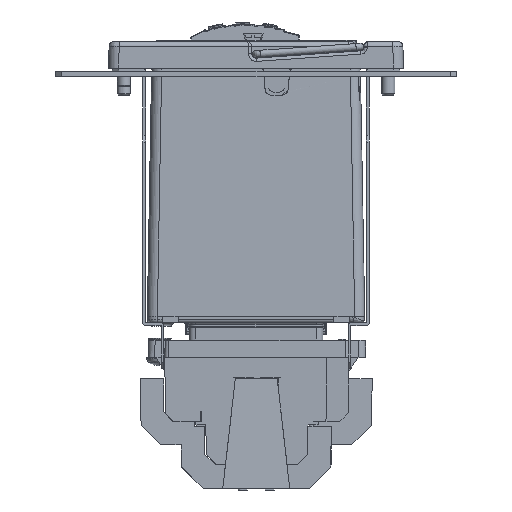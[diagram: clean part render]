
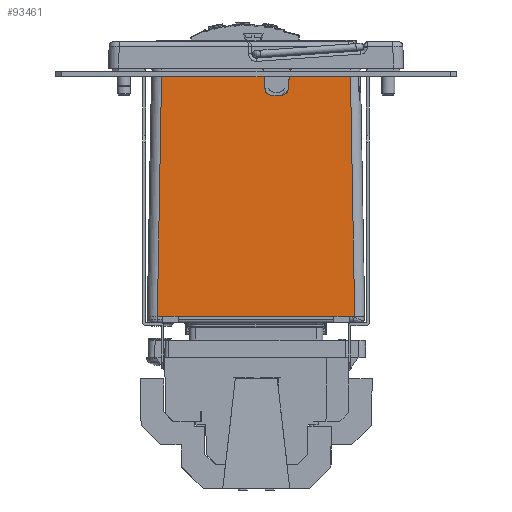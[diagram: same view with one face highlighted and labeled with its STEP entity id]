
A CAD part, left-side view. The second image highlights one B-rep face of the part: STEP entity #93461.
In plain terms, the highlighted planar face has unit normal (-1, 0, 0.018).
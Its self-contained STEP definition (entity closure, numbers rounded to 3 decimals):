
#3902=ELLIPSE('',#98661,2.,2.);
#3903=ELLIPSE('',#98662,2.,2.);
#3904=ELLIPSE('',#98663,2.,2.);
#3905=ELLIPSE('',#98664,2.,2.);
#11591=FACE_OUTER_BOUND('',#16439,.T.);
#16439=EDGE_LOOP('',(#69728,#69729,#69730,#69731,#69732,#69733,#69734,#69735,
#69736,#69737,#69738,#69739,#69740,#69741,#69742,#69743,#69744));
#21336=LINE('',#128353,#30901);
#23819=LINE('',#138274,#33384);
#23835=LINE('',#138307,#33400);
#23874=LINE('',#138420,#33439);
#23877=LINE('',#138432,#33442);
#23881=LINE('',#138441,#33446);
#23899=LINE('',#138488,#33464);
#23900=LINE('',#138490,#33465);
#23901=LINE('',#138492,#33466);
#23902=LINE('',#138494,#33467);
#23903=LINE('',#138495,#33468);
#23904=LINE('',#138497,#33469);
#23905=LINE('',#138501,#33470);
#30901=VECTOR('',#105197,10.);
#33384=VECTOR('',#109954,10.);
#33400=VECTOR('',#109974,10.);
#33439=VECTOR('',#110105,10.);
#33442=VECTOR('',#110118,10.);
#33446=VECTOR('',#110126,10.);
#33464=VECTOR('',#110178,10.);
#33465=VECTOR('',#110179,10.);
#33466=VECTOR('',#110180,10.);
#33467=VECTOR('',#110181,10.);
#33468=VECTOR('',#110182,10.);
#33469=VECTOR('',#110183,10.);
#33470=VECTOR('',#110186,10.);
#40413=VERTEX_POINT('',#128350);
#40414=VERTEX_POINT('',#128352);
#42745=VERTEX_POINT('',#138272);
#42759=VERTEX_POINT('',#138304);
#42760=VERTEX_POINT('',#138306);
#42787=VERTEX_POINT('',#138417);
#42788=VERTEX_POINT('',#138419);
#42792=VERTEX_POINT('',#138431);
#42795=VERTEX_POINT('',#138439);
#42807=VERTEX_POINT('',#138487);
#42808=VERTEX_POINT('',#138489);
#42809=VERTEX_POINT('',#138491);
#42810=VERTEX_POINT('',#138493);
#42811=VERTEX_POINT('',#138496);
#42812=VERTEX_POINT('',#138498);
#42813=VERTEX_POINT('',#138500);
#42814=VERTEX_POINT('',#138503);
#49517=EDGE_CURVE('',#40413,#40414,#21336,.T.);
#52842=EDGE_CURVE('',#40413,#42745,#23819,.T.);
#52860=EDGE_CURVE('',#42760,#42759,#23835,.T.);
#52919=EDGE_CURVE('',#42788,#42787,#23874,.T.);
#52925=EDGE_CURVE('',#42792,#42760,#23877,.T.);
#52930=EDGE_CURVE('',#42795,#42759,#23881,.T.);
#52954=EDGE_CURVE('',#42807,#42795,#23899,.T.);
#52955=EDGE_CURVE('',#42807,#42808,#23900,.T.);
#52956=EDGE_CURVE('',#42809,#42808,#23901,.T.);
#52957=EDGE_CURVE('',#42809,#42810,#23902,.T.);
#52958=EDGE_CURVE('',#42810,#40414,#23903,.T.);
#52959=EDGE_CURVE('',#42745,#42811,#23904,.T.);
#52960=EDGE_CURVE('',#42812,#42811,#3902,.T.);
#52961=EDGE_CURVE('',#42812,#42813,#23905,.T.);
#52962=EDGE_CURVE('',#42788,#42813,#3903,.T.);
#52963=EDGE_CURVE('',#42787,#42814,#3904,.T.);
#52964=EDGE_CURVE('',#42792,#42814,#3905,.T.);
#69728=ORIENTED_EDGE('',*,*,#52860,.T.);
#69729=ORIENTED_EDGE('',*,*,#52930,.F.);
#69730=ORIENTED_EDGE('',*,*,#52954,.F.);
#69731=ORIENTED_EDGE('',*,*,#52955,.T.);
#69732=ORIENTED_EDGE('',*,*,#52956,.F.);
#69733=ORIENTED_EDGE('',*,*,#52957,.T.);
#69734=ORIENTED_EDGE('',*,*,#52958,.T.);
#69735=ORIENTED_EDGE('',*,*,#49517,.F.);
#69736=ORIENTED_EDGE('',*,*,#52842,.T.);
#69737=ORIENTED_EDGE('',*,*,#52959,.T.);
#69738=ORIENTED_EDGE('',*,*,#52960,.F.);
#69739=ORIENTED_EDGE('',*,*,#52961,.T.);
#69740=ORIENTED_EDGE('',*,*,#52962,.F.);
#69741=ORIENTED_EDGE('',*,*,#52919,.T.);
#69742=ORIENTED_EDGE('',*,*,#52963,.T.);
#69743=ORIENTED_EDGE('',*,*,#52964,.F.);
#69744=ORIENTED_EDGE('',*,*,#52925,.T.);
#90190=PLANE('',#98660);
#93461=ADVANCED_FACE('',(#11591),#90190,.T.);
#98660=AXIS2_PLACEMENT_3D('',#138486,#110176,#110177);
#98661=AXIS2_PLACEMENT_3D('',#138499,#110184,#110185);
#98662=AXIS2_PLACEMENT_3D('',#138502,#110187,#110188);
#98663=AXIS2_PLACEMENT_3D('',#138504,#110189,#110190);
#98664=AXIS2_PLACEMENT_3D('',#138505,#110191,#110192);
#105197=DIRECTION('',(-0.017,-0.017,-1.));
#109954=DIRECTION('',(0.,1.,0.));
#109974=DIRECTION('',(0.,1.,0.));
#110105=DIRECTION('',(0.,1.,0.));
#110118=DIRECTION('',(0.017,0.087,0.996));
#110126=DIRECTION('',(0.017,-0.017,1.));
#110176=DIRECTION('center_axis',(-1.,0.,
0.017));
#110177=DIRECTION('ref_axis',(0.,-1.,0.));
#110178=DIRECTION('',(0.,1.,0.));
#110179=DIRECTION('',(0.,-1.,0.));
#110180=DIRECTION('',(0.,1.,0.));
#110181=DIRECTION('',(0.,-1.,0.));
#110182=DIRECTION('',(0.,-1.,0.));
#110183=DIRECTION('',(-0.017,0.087,-0.996));
#110184=DIRECTION('center_axis',(-1.,0.,
0.017));
#110185=DIRECTION('ref_axis',(-0.017,0.,
-1.));
#110186=DIRECTION('',(0.,1.,0.));
#110187=DIRECTION('center_axis',(-1.,0.,
0.017));
#110188=DIRECTION('ref_axis',(-0.017,0.,
-1.));
#110189=DIRECTION('center_axis',(1.,0.,
-0.017));
#110190=DIRECTION('ref_axis',(-0.017,0.,
-1.));
#110191=DIRECTION('center_axis',(-1.,0.,
0.017));
#110192=DIRECTION('ref_axis',(-0.017,0.,
-1.));
#128350=CARTESIAN_POINT('',(-21.215,-28.216,0.));
#128352=CARTESIAN_POINT('',(-22.465,-29.466,-71.6));
#128353=CARTESIAN_POINT('',(-22.494,-29.495,-73.26));
#138272=CARTESIAN_POINT('',(-21.215,-9.955,0.));
#138274=CARTESIAN_POINT('',(-21.215,-16.25,0.));
#138304=CARTESIAN_POINT('',(-21.215,28.216,0.));
#138306=CARTESIAN_POINT('',(-21.215,-2.375,0.));
#138307=CARTESIAN_POINT('',(-21.215,-16.25,0.));
#138417=CARTESIAN_POINT('',(-21.293,-2.877,-4.44));
#138419=CARTESIAN_POINT('',(-21.293,-2.883,-4.44));
#138420=CARTESIAN_POINT('',(-21.293,-5.316,-4.44));
#138431=CARTESIAN_POINT('',(-21.281,-2.705,-3.774));
#138432=CARTESIAN_POINT('',(-21.855,-5.579,-36.621));
#138439=CARTESIAN_POINT('',(-22.465,29.466,-71.6));
#138441=CARTESIAN_POINT('',(-22.491,29.491,-73.085));
#138486=CARTESIAN_POINT('Origin',(-22.5,-32.5,-73.6));
#138487=CARTESIAN_POINT('',(-22.465,27.915,-71.6));
#138488=CARTESIAN_POINT('',(-22.465,-32.5,-71.6));
#138489=CARTESIAN_POINT('',(-22.465,23.25,-71.6));
#138490=CARTESIAN_POINT('',(-22.465,-15.915,-71.6));
#138491=CARTESIAN_POINT('',(-22.465,-23.25,-71.6));
#138492=CARTESIAN_POINT('',(-22.465,-32.5,-71.6));
#138493=CARTESIAN_POINT('',(-22.465,-27.915,-71.6));
#138494=CARTESIAN_POINT('',(-22.465,-15.915,-71.6));
#138495=CARTESIAN_POINT('',(-22.465,-15.915,-71.6));
#138496=CARTESIAN_POINT('',(-21.281,-9.625,-3.774));
#138497=CARTESIAN_POINT('',(-21.815,-6.95,-34.355));
#138498=CARTESIAN_POINT('',(-21.313,-7.633,-5.6));
#138499=CARTESIAN_POINT('Origin',(-21.278,-7.633,-3.6));
#138500=CARTESIAN_POINT('',(-21.313,-4.698,-5.6));
#138501=CARTESIAN_POINT('',(-21.313,-19.333,-5.6));
#138502=CARTESIAN_POINT('Origin',(-21.278,-4.698,-3.6));
#138503=CARTESIAN_POINT('',(-21.291,-2.843,-4.347));
#138504=CARTESIAN_POINT('Origin',(-21.28,-4.735,-3.7));
#138505=CARTESIAN_POINT('Origin',(-21.278,-4.698,-3.6));
